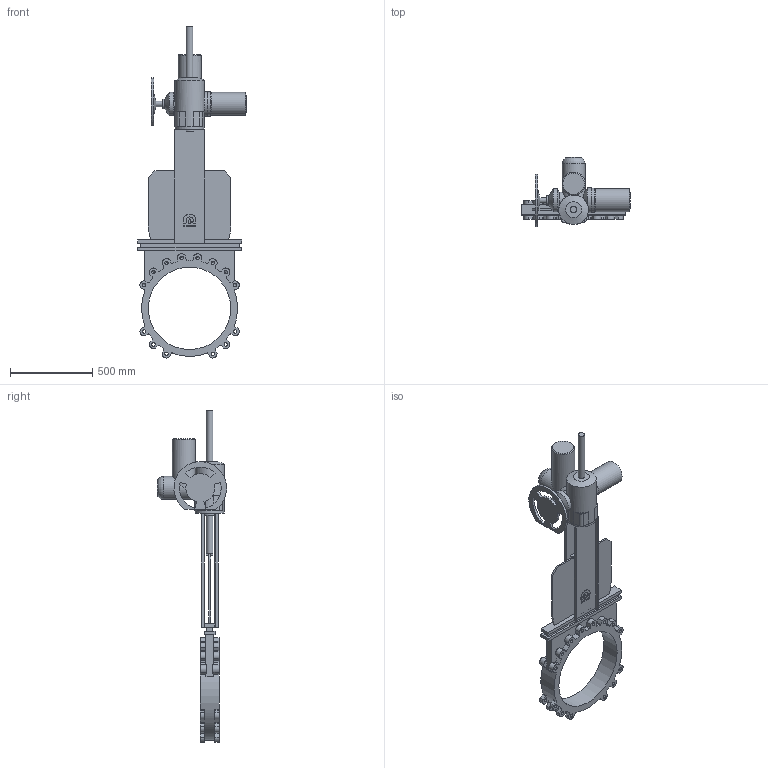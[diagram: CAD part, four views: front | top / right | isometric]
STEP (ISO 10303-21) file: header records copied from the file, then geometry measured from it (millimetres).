
FILE_DESCRIPTION(('STEP AP203'), '1');
FILE_NAME('K51GVA_DN500+MT903.A 45', '', ('UNSPECIFIED'), ('UNSPECIFIED'), 'ASCON STEP Converter 1.6', 'ASCON Math Kernel', '');
FILE_SCHEMA(('CONFIG_CONTROL_DESIGN'));
Length unit declared in the file: millimetre
Bounding box: 659 x 419.49 x 2014.41 mm (x, y, z)
Volume: 38932717 mm3; surface area: 2848375.5 mm2
Topology: 1 solids, 2 shells, 394 faces, 1076 edges, 707 vertices
Faces by surface type: plane 191, cylinder 176, cone 26, torus 1
Full cylindrical faces by diameter (mm): 14 x4, 18 x4, 20.752 x28, 32 x1, 40 x2, 60 x1, 80 x1, 100 x2, 140 x4, 147 x1, 151 x1, 175 x1, 500 x1
Entity records: 16150 total; most frequent: CARTESIAN_POINT 3012, DIRECTION 2145, ORIENTED_EDGE 1966, EDGE_CURVE 983, AXIS2_PLACEMENT_3D 796, VERTEX_POINT 691, LINE 553, VECTOR 553
